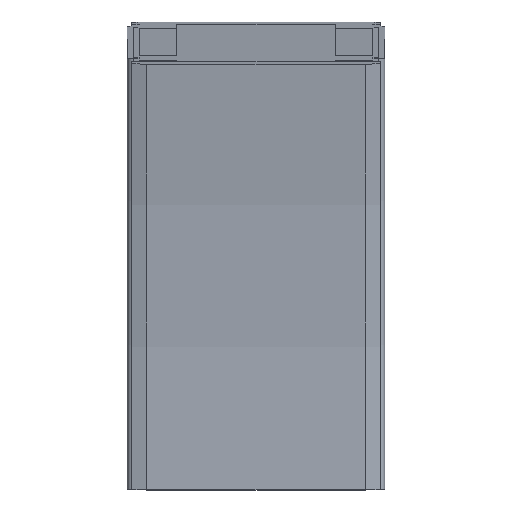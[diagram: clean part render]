
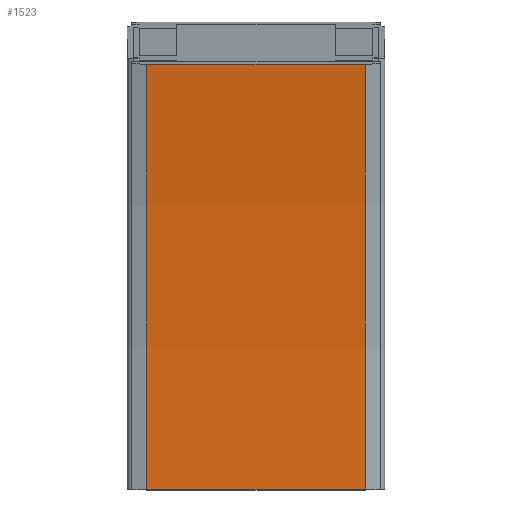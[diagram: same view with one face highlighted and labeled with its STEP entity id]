
A CAD part, top view. The second image highlights one B-rep face of the part: STEP entity #1523.
In plain terms, the highlighted cylindrical face has radius 817.5 mm (diameter 1635 mm), a partial arc.
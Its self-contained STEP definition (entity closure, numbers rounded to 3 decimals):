
#79=CYLINDRICAL_SURFACE('',#1637,817.5);
#110=FACE_OUTER_BOUND('',#197,.T.);
#197=EDGE_LOOP('',(#1004,#1005,#1006,#1007));
#289=CIRCLE('',#1636,817.5);
#290=CIRCLE('',#1638,817.5);
#358=LINE('',#2198,#484);
#359=LINE('',#2200,#485);
#484=VECTOR('',#1790,10.);
#485=VECTOR('',#1791,10.);
#610=VERTEX_POINT('',#2191);
#611=VERTEX_POINT('',#2193);
#612=VERTEX_POINT('',#2197);
#613=VERTEX_POINT('',#2199);
#768=EDGE_CURVE('',#610,#611,#289,.T.);
#769=EDGE_CURVE('',#612,#610,#358,.T.);
#770=EDGE_CURVE('',#613,#611,#359,.T.);
#771=EDGE_CURVE('',#612,#613,#290,.T.);
#1004=ORIENTED_EDGE('',*,*,#769,.T.);
#1005=ORIENTED_EDGE('',*,*,#768,.T.);
#1006=ORIENTED_EDGE('',*,*,#770,.F.);
#1007=ORIENTED_EDGE('',*,*,#771,.F.);
#1523=ADVANCED_FACE('',(#110),#79,.F.);
#1636=AXIS2_PLACEMENT_3D('',#2195,#1786,#1787);
#1637=AXIS2_PLACEMENT_3D('',#2196,#1788,#1789);
#1638=AXIS2_PLACEMENT_3D('',#2201,#1792,#1793);
#1786=DIRECTION('center_axis',(1.,0.,0.));
#1787=DIRECTION('ref_axis',(0.,0.,-1.));
#1788=DIRECTION('center_axis',(1.,0.,0.));
#1789=DIRECTION('ref_axis',(0.,0.,-1.));
#1790=DIRECTION('',(1.,0.,0.));
#1791=DIRECTION('',(1.,0.,0.));
#1792=DIRECTION('center_axis',(1.,0.,0.));
#1793=DIRECTION('ref_axis',(0.,0.,-1.));
#2191=CARTESIAN_POINT('',(36.5,0.,42.5));
#2193=CARTESIAN_POINT('',(36.5,141.957,54.92));
#2195=CARTESIAN_POINT('Origin',(36.5,0.,860.));
#2196=CARTESIAN_POINT('Origin',(0.,0.,860.));
#2197=CARTESIAN_POINT('',(-36.5,0.,42.5));
#2198=CARTESIAN_POINT('',(-36.5,0.,42.5));
#2199=CARTESIAN_POINT('',(-36.5,141.957,54.92));
#2200=CARTESIAN_POINT('',(-36.5,141.957,54.92));
#2201=CARTESIAN_POINT('Origin',(-36.5,0.,
860.));
